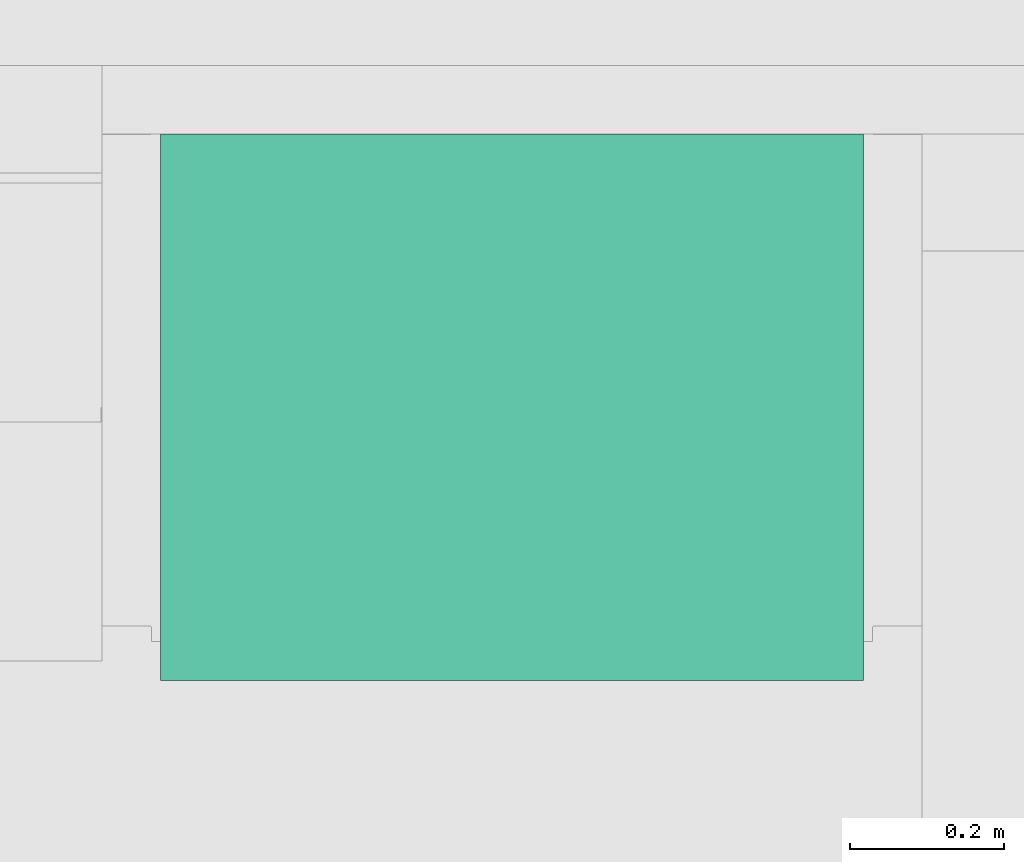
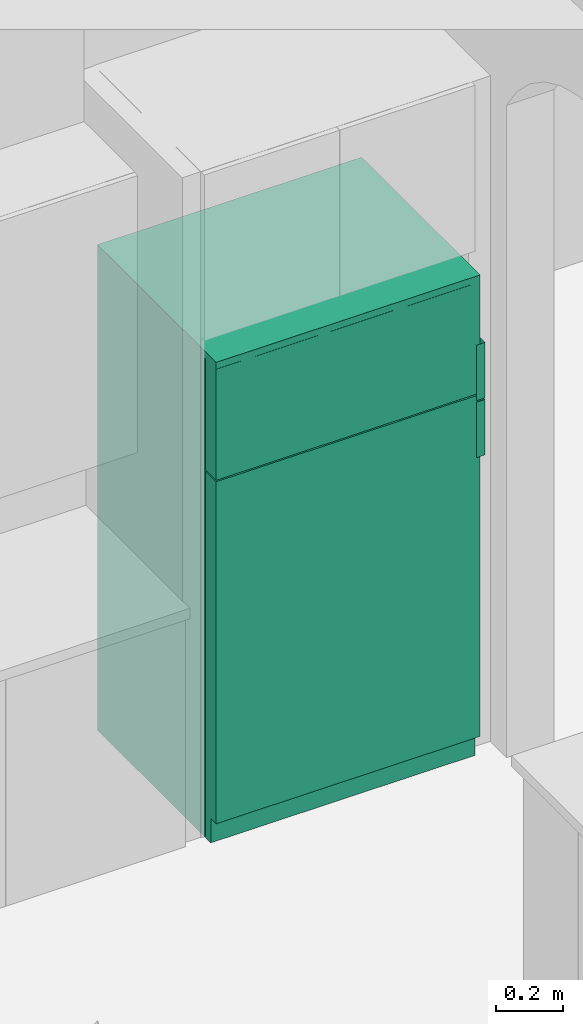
# One storey, part 38 of 103: 1 flow terminal.
"""IFC2X3 building model written with IfcOpenShell, lengths in inches."""

from ifc_helpers import new_model, entity, si_unit, converted_unit, derived_unit, money_unit, direction, frame, origin_with_axes, place, context, subcontext, project, spatial, open_shell, faceted_brep, surface_model, type_object, element, save


model = new_model("IFC2X3")

# Units and contexts
model_context = context("Model", 3, precision=0.00039370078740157, world=origin_with_axes(), true_north=direction((0.0, 1.0)))
plan_context = context("Plan", 3, precision=0.00039370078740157, world=origin_with_axes(), true_north=direction((0.0, 1.0)))
body_context = subcontext(model_context, "Body", "Model", "MODEL_VIEW")
ifc_project = project(units=[converted_unit("LENGTHUNIT", "INCH", entity("IfcPositiveLengthMeasure", 0.0254), si_unit("LENGTHUNIT", "METRE"), dimensions=[1, 0, 0, 0, 0, 0, 0]), converted_unit("AREAUNIT", "SQUARE_FOOT", entity("IfcPositiveLengthMeasure", 0.09290304), si_unit("AREAUNIT", "SQUARE_METRE"), dimensions=[2, 0, 0, 0, 0, 0, 0]), si_unit("PLANEANGLEUNIT", "RADIAN"), si_unit("SOLIDANGLEUNIT", "STERADIAN"), money_unit("USD"), converted_unit("TIMEUNIT", "Year", entity("IfcTimeMeasure", 31557600.0), si_unit("TIMEUNIT", "SECOND"), dimensions=[0, 0, 1, 0, 0, 0, 0]), si_unit("MASSUNIT", "GRAM", prefix="KILO"), si_unit("THERMODYNAMICTEMPERATUREUNIT", "DEGREE_CELSIUS"), si_unit("LUMINOUSINTENSITYUNIT", "LUMEN"), si_unit("ENERGYUNIT", "JOULE", prefix="MEGA"), derived_unit("SPECIFICHEATCAPACITYUNIT", [(si_unit("ENERGYUNIT", "JOULE"), 1), (si_unit("MASSUNIT", "GRAM", prefix="KILO"), -1), (si_unit("THERMODYNAMICTEMPERATUREUNIT", "KELVIN"), -1)])], contexts=[model_context, plan_context])

# Site, building, storey
site_placement = place(None, origin_with_axes())
site = spatial("IfcSite", under=ifc_project, at=site_placement, Name="Site", CompositionType="ELEMENT")
building_placement = place(site_placement, origin_with_axes())
building = spatial("IfcBuilding", under=site, at=building_placement, Name="Building", CompositionType="ELEMENT")
storey_placement = place(building_placement, frame((0.0, 0.0, 127.9999999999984), z_axis=(0.0, 0.0, 1.0), x_axis=(1.0, 0.0, 0.0)))
storey = spatial("IfcBuildingStorey", under=building, at=storey_placement, Name="Second Floor", CompositionType="ELEMENT", Elevation=128.0)

# Flow terminal
electric_appliance_type = type_object("IfcElectricApplianceType", Name="Refrigerator", PredefinedType="NOTDEFINED")
flow_terminal_placement = place(storey_placement, frame((115.9995254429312, 369.5015429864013, 0.0), z_axis=(0.0, 0.0, 1.0), x_axis=(0.9999999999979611, 2.01938114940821e-06, 0.0)))
element("IfcFlowTerminal", 1, at=flow_terminal_placement, inside=storey, type_object=electric_appliance_type, Name="OBJ-20", context=body_context, shape_type="SurfaceModel", body=[
    faceted_brep([(0.0, 0.0, 69.01574803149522), (35.99999999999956, 0.0, 69.01574803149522), (35.99999999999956, 0.0, 69.99999999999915), (0.0, 0.0, 69.99999999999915), (0.0, 27.99999999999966, 69.01574803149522), (35.99999999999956, 27.99999999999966, 69.01574803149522), (35.99999999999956, 27.99999999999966, 69.99999999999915), (0.0, 27.99999999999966, 69.99999999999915)], [[[0, 1, 2, 3]], [[0, 4, 5, 1]], [[1, 5, 6, 2]], [[3, 2, 6, 7]], [[4, 0, 3, 7]], [[5, 4, 7, 6]]]),
    faceted_brep([(0.0, 2.696850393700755, 0.0), (35.99999999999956, 2.696850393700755, 0.0), (35.99999999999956, 2.696850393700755, 69.01574803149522), (0.0, 2.696850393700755, 69.01574803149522), (0.0, 27.99999999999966, 0.0), (35.99999999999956, 27.99999999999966, 0.0), (35.99999999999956, 27.99999999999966, 69.01574803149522), (0.0, 27.99999999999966, 69.01574803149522)], [[[0, 1, 2, 3]], [[0, 4, 5, 1]], [[1, 5, 6, 2]], [[3, 2, 6, 7]], [[4, 0, 3, 7]], [[5, 4, 7, 6]]]),
    faceted_brep([(0.0, 1.249999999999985, 0.0), (35.99999999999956, 1.249999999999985, 0.0), (35.99999999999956, 1.249999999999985, 3.499999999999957), (0.0, 1.249999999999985, 3.499999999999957), (0.0, 2.499999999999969, 0.0), (35.99999999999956, 2.499999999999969, 0.0), (35.99999999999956, 2.499999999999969, 3.499999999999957), (0.0, 2.499999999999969, 3.499999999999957)], [[[0, 1, 2, 3]], [[0, 4, 5, 1]], [[1, 5, 6, 2]], [[3, 2, 6, 7]], [[4, 0, 3, 7]], [[5, 4, 7, 6]]]),
    faceted_brep([(0.0, 2.499999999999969, 3.499999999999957), (35.99999999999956, 2.499999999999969, 3.499999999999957), (35.99999999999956, 0.0, 3.499999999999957), (0.0, 0.0, 3.499999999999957), (0.0, 2.499999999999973, 52.79921259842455), (35.99999999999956, 2.499999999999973, 52.79921259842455), (35.99999999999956, 0.0, 52.79921259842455), (0.0, 0.0, 52.79921259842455)], [[[0, 1, 2, 3]], [[0, 4, 5, 1]], [[1, 5, 6, 2]], [[3, 2, 6, 7]], [[4, 0, 3, 7]], [[5, 4, 7, 6]]]),
    faceted_brep([(0.0, 2.499999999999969, 52.99606299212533), (35.99999999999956, 2.499999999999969, 52.99606299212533), (35.99999999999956, 0.0, 52.99606299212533), (0.0, 0.0, 52.99606299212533), (0.0, 2.499999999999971, 68.99606299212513), (35.99999999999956, 2.499999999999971, 68.99606299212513), (35.99999999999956, 0.0, 68.99606299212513), (0.0, 0.0, 68.99606299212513)], [[[0, 1, 2, 3]], [[0, 4, 5, 1]], [[1, 5, 6, 2]], [[3, 2, 6, 7]], [[4, 0, 3, 7]], [[5, 4, 7, 6]]]),
    surface_model("IfcShellBasedSurfaceModel", [(35.99999999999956, -1.18110236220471, 44.79921259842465), (35.99999999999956, -1.18110236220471, 52.79921259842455), (35.99999999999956, 0.0, 52.79921259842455), (35.99999999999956, 0.0, 44.79921259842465)], [open_shell([[[0, 1, 2, 3]]])]),
    surface_model("IfcShellBasedSurfaceModel", [(35.99999999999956, -1.18110236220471, 44.79921259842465), (35.99999999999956, -1.18110236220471, 52.79921259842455), (34.81889763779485, -1.18110236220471, 52.79921259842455), (34.81889763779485, -1.18110236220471, 44.79921259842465)], [open_shell([[[0, 1, 2, 3]]])]),
    surface_model("IfcShellBasedSurfaceModel", [(35.99999999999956, -1.18110236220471, 52.99606299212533), (35.99999999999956, -1.18110236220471, 60.99606299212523), (35.99999999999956, 0.0, 60.99606299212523), (35.99999999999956, 0.0, 52.99606299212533)], [open_shell([[[0, 1, 2, 3]]])]),
    surface_model("IfcShellBasedSurfaceModel", [(35.99999999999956, -1.18110236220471, 52.99606299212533), (35.99999999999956, -1.18110236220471, 60.99606299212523), (34.81889763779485, -1.18110236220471, 60.99606299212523), (34.81889763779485, -1.18110236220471, 52.99606299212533)], [open_shell([[[0, 1, 2, 3]]])]),
])

save(model, "model.ifc")
